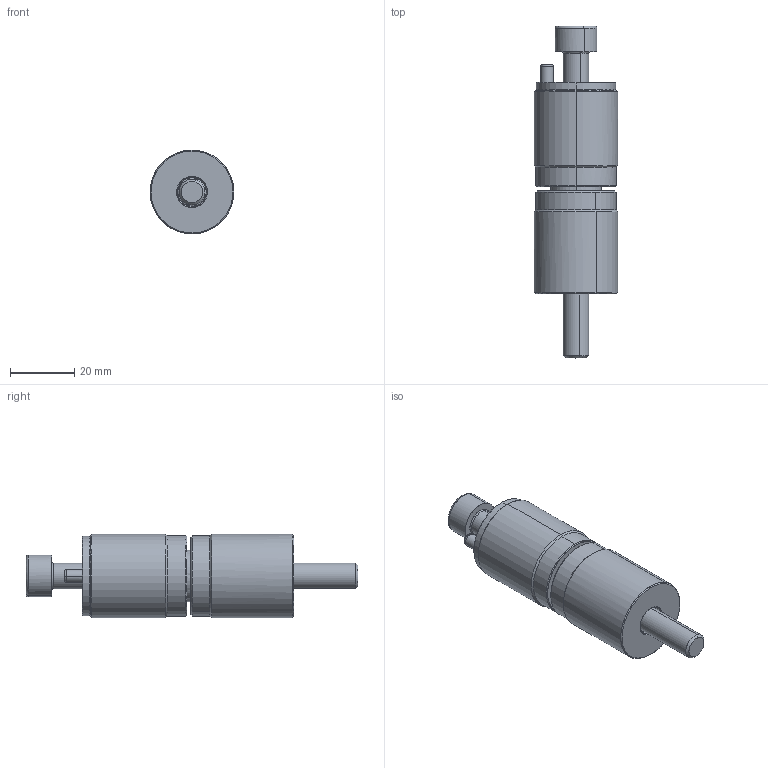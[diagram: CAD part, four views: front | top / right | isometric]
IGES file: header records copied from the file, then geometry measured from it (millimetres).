
Start section: START RECORD GO HERE.
Global section: file name: pr263230.igs; native system: DASSAULT SYSTEMES CATIA V5 R20 - www.3ds.com; preprocessor: CATIA Version 5 Release 20 ; author: Utente; organization: NB04-ASUS; date: 20201103.211243; units: millimetre
Bounding box: 26 x 103.17 x 26 mm (x, y, z)
Surface area: 17871.7 mm2 (no closed solid volume)
Topology: 0 solids, 0 shells, 433 faces, 2114 edges, 2062 vertices
Faces by surface type: revolution 263, bspline 95, plane 75
